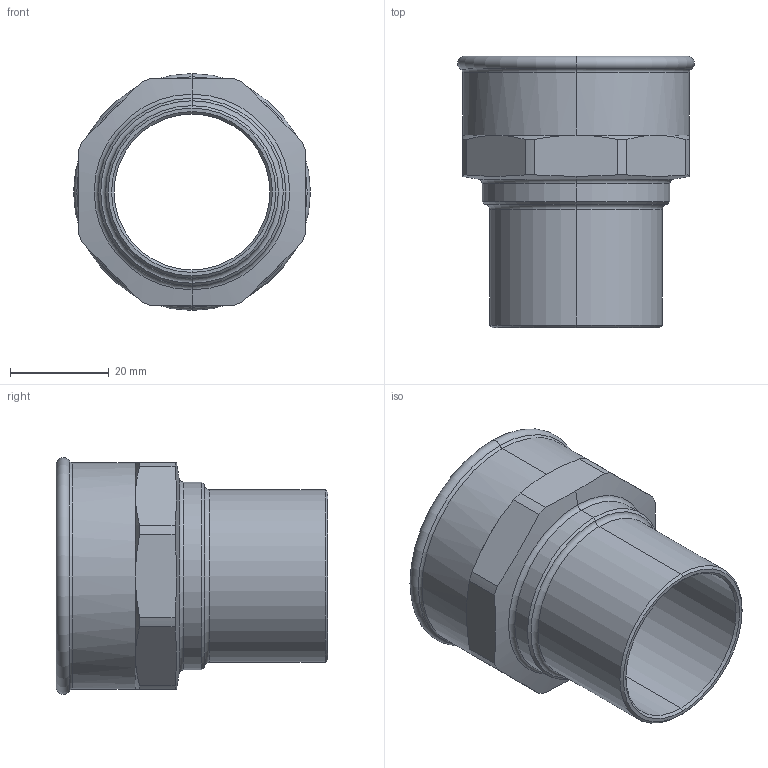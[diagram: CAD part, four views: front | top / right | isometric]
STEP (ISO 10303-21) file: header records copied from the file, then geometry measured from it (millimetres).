
FILE_DESCRIPTION (( 'STEP AP203' ), '1' );
FILE_NAME ('SP4281G Ø35 1 1-4.STEP', '2017-04-26T09:18:51', ( '' ), ( '' ), 'SwSTEP 2.0', 'SolidWorks 2016', '' );
FILE_SCHEMA (( 'CONFIG_CONTROL_DESIGN' ));
Length unit declared in the file: millimetre
Products named in the file (1): SP4281G Ø35 1 1-4
Bounding box: 48 x 55 x 48 mm (x, y, z)
Volume: 19777.8 mm3; surface area: 14466.9 mm2
Topology: 1 solids, 1 shells, 56 faces, 128 edges, 74 vertices
Faces by surface type: cone 20, cylinder 18, plane 10, torus 8
Entity records: 1743 total; most frequent: CARTESIAN_POINT 409, DIRECTION 280, ORIENTED_EDGE 256, EDGE_CURVE 128, AXIS2_PLACEMENT_3D 121, VERTEX_POINT 74, CIRCLE 64, EDGE_LOOP 58
